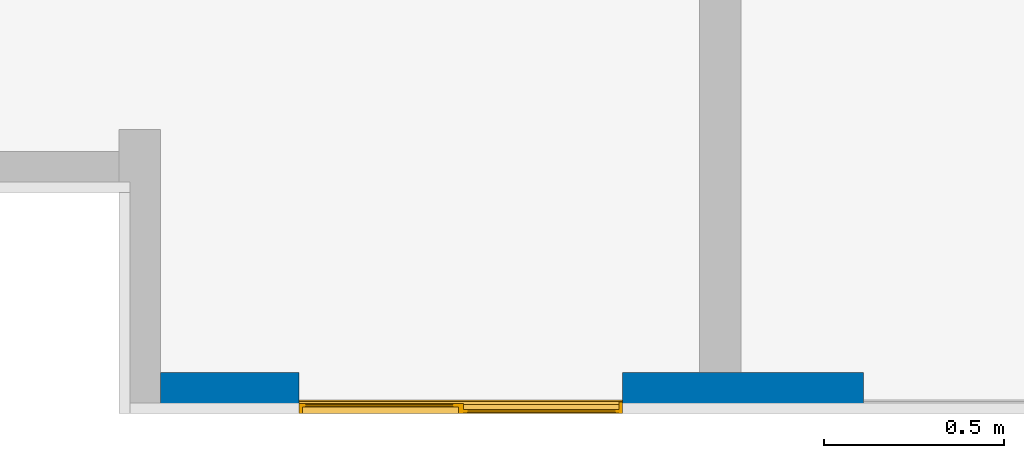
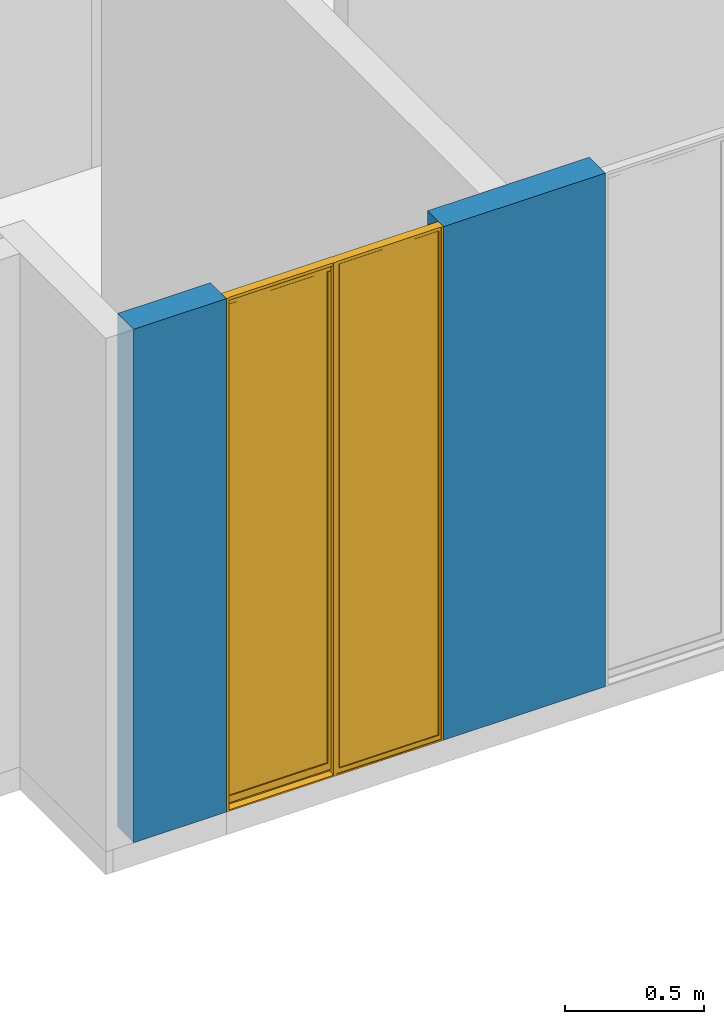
# One storey, part 11 of 47: 1 wall, 1 window, 2 openings.
"""IFC4 building model written with IfcOpenShell, lengths in metres."""

from ifc_helpers import new_model, entity, si_unit, converted_unit, derived_unit, direction, frame, origin, place, context, subcontext, project, spatial, indexed_curve, outline, extrude, polygons, source, transform, mapped, material, constituent, constituent_set, type_object, type_shapes, element, fill, save


model = new_model("IFC4")

# Units and contexts
model_context = context("Model", 3, precision=1e-05, world=origin(), true_north=direction((6.123031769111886e-17, 1.0)))
body_context = subcontext(model_context, "Body", "Model", "MODEL_VIEW")
ifc_project = project(units=[si_unit("LENGTHUNIT", "METRE"), si_unit("AREAUNIT", "SQUARE_METRE"), si_unit("VOLUMEUNIT", "CUBIC_METRE"), converted_unit("PLANEANGLEUNIT", "DEGREE", entity("IfcRatioMeasure", 0.017453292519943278), si_unit("PLANEANGLEUNIT", "RADIAN"), dimensions=[0, 0, 0, 0, 0, 0, 0]), si_unit("MASSUNIT", "GRAM", prefix="KILO"), derived_unit("MASSDENSITYUNIT", [(si_unit("MASSUNIT", "GRAM", prefix="KILO"), 1), (si_unit("LENGTHUNIT", "METRE"), -3)]), derived_unit("IONCONCENTRATIONUNIT", [(si_unit("MASSUNIT", "GRAM", prefix="KILO"), 1), (si_unit("LENGTHUNIT", "METRE"), -3)]), derived_unit("MOMENTOFINERTIAUNIT", [(si_unit("LENGTHUNIT", "METRE"), 4)]), si_unit("TIMEUNIT", "SECOND"), si_unit("FREQUENCYUNIT", "HERTZ"), si_unit("THERMODYNAMICTEMPERATUREUNIT", "DEGREE_CELSIUS"), derived_unit("THERMALTRANSMITTANCEUNIT", [(si_unit("MASSUNIT", "GRAM", prefix="KILO"), 1), (si_unit("THERMODYNAMICTEMPERATUREUNIT", "KELVIN"), -1), (si_unit("TIMEUNIT", "SECOND"), -3)]), derived_unit("THERMALCONDUCTANCEUNIT", [(si_unit("MASSUNIT", "GRAM", prefix="KILO"), 1), (si_unit("THERMODYNAMICTEMPERATUREUNIT", "KELVIN"), -1), (si_unit("TIMEUNIT", "SECOND"), -3), (si_unit("LENGTHUNIT", "METRE"), 1)]), derived_unit("VOLUMETRICFLOWRATEUNIT", [(si_unit("LENGTHUNIT", "METRE"), 3), (si_unit("TIMEUNIT", "SECOND"), -1)]), derived_unit("MASSFLOWRATEUNIT", [(si_unit("MASSUNIT", "GRAM", prefix="KILO"), 1), (si_unit("TIMEUNIT", "SECOND"), -1)]), derived_unit("ROTATIONALFREQUENCYUNIT", [(si_unit("TIMEUNIT", "SECOND"), -1)]), si_unit("ELECTRICCURRENTUNIT", "AMPERE"), si_unit("ELECTRICVOLTAGEUNIT", "VOLT"), si_unit("POWERUNIT", "WATT"), si_unit("FORCEUNIT", "NEWTON", prefix="KILO"), si_unit("ILLUMINANCEUNIT", "LUX"), si_unit("LUMINOUSFLUXUNIT", "LUMEN"), si_unit("LUMINOUSINTENSITYUNIT", "CANDELA"), derived_unit("USERDEFINED", [(si_unit("MASSUNIT", "GRAM", prefix="KILO"), -1), (si_unit("LENGTHUNIT", "METRE"), -2), (si_unit("TIMEUNIT", "SECOND"), 3), (si_unit("LUMINOUSFLUXUNIT", "LUMEN"), 1)]), derived_unit("USERDEFINED", [(si_unit("MASSUNIT", "GRAM", prefix="KILO"), 1), (si_unit("TIMEUNIT", "SECOND"), -3), (si_unit("LENGTHUNIT", "METRE"), 3), (si_unit("ELECTRICCURRENTUNIT", "AMPERE"), -2)]), derived_unit("SOUNDPOWERUNIT", [(si_unit("MASSUNIT", "GRAM", prefix="KILO"), 1), (si_unit("TIMEUNIT", "SECOND"), -3), (si_unit("LENGTHUNIT", "METRE"), 2)]), derived_unit("SOUNDPRESSUREUNIT", [(si_unit("MASSUNIT", "GRAM", prefix="KILO"), 1), (si_unit("LENGTHUNIT", "METRE"), -1), (si_unit("TIMEUNIT", "SECOND"), -2)]), derived_unit("LINEARVELOCITYUNIT", [(si_unit("LENGTHUNIT", "METRE"), 1), (si_unit("TIMEUNIT", "SECOND"), -1)]), si_unit("PRESSUREUNIT", "PASCAL"), derived_unit("USERDEFINED", [(si_unit("MASSUNIT", "GRAM", prefix="KILO"), 1), (si_unit("LENGTHUNIT", "METRE"), -2), (si_unit("TIMEUNIT", "SECOND"), -2)]), derived_unit("LINEARFORCEUNIT", [(si_unit("MASSUNIT", "GRAM", prefix="KILO"), 1), (si_unit("TIMEUNIT", "SECOND"), -2)]), derived_unit("PLANARFORCEUNIT", [(si_unit("MASSUNIT", "GRAM", prefix="KILO"), 1), (si_unit("LENGTHUNIT", "METRE"), -1), (si_unit("TIMEUNIT", "SECOND"), -2)]), derived_unit("SPECIFICHEATCAPACITYUNIT", [(si_unit("THERMODYNAMICTEMPERATUREUNIT", "KELVIN"), -1), (si_unit("LENGTHUNIT", "METRE"), 2), (si_unit("TIMEUNIT", "SECOND"), -2)]), derived_unit("HEATINGVALUEUNIT", [(si_unit("LENGTHUNIT", "METRE"), 2), (si_unit("TIMEUNIT", "SECOND"), -2)]), derived_unit("VAPORPERMEABILITYUNIT", [(si_unit("LENGTHUNIT", "METRE"), -1), (si_unit("TIMEUNIT", "SECOND"), 1)]), derived_unit("DYNAMICVISCOSITYUNIT", [(si_unit("MASSUNIT", "GRAM", prefix="KILO"), 1), (si_unit("TIMEUNIT", "SECOND"), -1), (si_unit("LENGTHUNIT", "METRE"), -1)]), derived_unit("THERMALEXPANSIONCOEFFICIENTUNIT", [(si_unit("THERMODYNAMICTEMPERATUREUNIT", "KELVIN"), -1)]), derived_unit("MODULUSOFELASTICITYUNIT", [(si_unit("MASSUNIT", "GRAM", prefix="KILO"), 1), (si_unit("LENGTHUNIT", "METRE"), -1), (si_unit("TIMEUNIT", "SECOND"), -2)]), derived_unit("ISOTHERMALMOISTURECAPACITYUNIT", [(si_unit("LENGTHUNIT", "METRE"), 3), (si_unit("MASSUNIT", "GRAM", prefix="KILO"), -1)]), derived_unit("MOISTUREDIFFUSIVITYUNIT", [(si_unit("TIMEUNIT", "SECOND"), -1), (si_unit("LENGTHUNIT", "METRE"), 2)])], contexts=[model_context])

# Site, building, storey
site_placement = place(None, origin())
site = spatial("IfcSite", under=ifc_project, at=site_placement, Name="Default", CompositionType="ELEMENT")
building_placement = place(site_placement, origin())
building = spatial("IfcBuilding", under=site, at=building_placement, CompositionType="ELEMENT")
storey_placement = place(building_placement, frame((0.0, 0.0, 11.750000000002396)))
storey = spatial("IfcBuildingStorey", under=building, at=storey_placement, Name="Nivel 6", CompositionType="ELEMENT", Elevation=11.750000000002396)

# Wall, openings, window
ifc_material_1 = material(Name="Ladrillo claro (Aire)", Category="Materials")
wall_type = type_object("IfcWallType", Name="Basic Wall:B2010 - 0.115m - Muro exterior en mampostería - Ladrillo", PredefinedType="STANDARD")
wall_placement = place(storey_placement, frame((12.577500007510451, -12.812500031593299, 0.0)))
wall = element("IfcWall", 1, at=wall_placement, inside=storey, type_object=wall_type, material=ifc_material_1, Name="Basic Wall:B2010 - 0.115m - Muro exterior en mampostería - Ladrillo", ObjectType="Basic Wall:B2010 - 0.115m - Muro exterior en mampostería - Ladrillo", PredefinedType="NOTDEFINED", context=body_context, shape_type="Tessellation", body=[
    polygons([(1.1551788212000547e-17, -0.057499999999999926, 2.250000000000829), (1.1551788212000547e-17, -0.057499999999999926, -2.1657342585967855e-15), (0.3850000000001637, -0.057499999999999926, -2.1657342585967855e-15), (0.3850000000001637, -0.057499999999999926, 2.250000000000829), (6.500625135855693e-16, 0.057499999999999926, -2.1657342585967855e-15), (0.3850000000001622, 0.057499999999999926, -2.1657342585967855e-15), (0.3850000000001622, 0.057499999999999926, 2.250000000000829), (6.500625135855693e-16, 0.057499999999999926, 2.250000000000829)], [[[1, 2, 3, 4]], [[2, 5, 6, 3]], [[4, 3, 6, 7]], [[2, 1, 8, 5]], [[8, 1, 4, 7]], [[5, 8, 7, 6]]], closed=True),
    polygons([(1.9557999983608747, 0.057499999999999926, 2.250000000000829), (1.9557999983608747, 0.057499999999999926, -2.1657342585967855e-15), (1.6149999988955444, 0.05750000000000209, -2.1657342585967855e-15), (1.4999999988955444, 0.057499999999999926, -2.1657342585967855e-15), (1.2850000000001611, 0.057499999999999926, -2.1657342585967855e-15), (1.2850000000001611, 0.057499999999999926, 2.250000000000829), (1.4999999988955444, 0.057499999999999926, 2.2500000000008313), (1.6149999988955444, 0.05750000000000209, 2.2500000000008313), (1.9557999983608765, -0.057499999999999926, 2.250000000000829), (1.2850000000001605, -0.057499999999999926, 2.250000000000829), (1.9557999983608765, -0.057499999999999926, -2.1657342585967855e-15), (1.2850000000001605, -0.057499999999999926, -2.1657342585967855e-15)], [[[1, 2, 3, 4, 5, 6, 7, 8]], [[9, 1, 8, 7, 6, 10]], [[9, 11, 2, 1]], [[12, 10, 6, 5]], [[2, 11, 12, 5, 4, 3]], [[11, 9, 10, 12]]], closed=True),
])
opening_1_placement = place(wall_placement, frame((1.9557999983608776, -0.05749999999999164, 0.0)))
element("IfcOpeningElement", 2, at=opening_1_placement, cuts=wall, Name="B2020 - Ventana corrediza 2C - Aluminio + Vidrio:B2020 - 1.02m x 2.25m - Ventana corrediza 2C - Aluminio + Vidrio:1", PredefinedType="OPENING", context=body_context, shape_type="SweptSolid", body=[
    extrude(outline(indexed_curve([(0.0, 1.0199999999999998), (0.0, 7.374544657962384e-30), (2.2499999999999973, 7.374544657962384e-30), (2.249999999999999, 1.0199999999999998), (0.0, 1.0199999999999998)], self_intersect=False)), frame((0.0, 0.0, 0.0), z_axis=(0.0, 1.0, 0.0), x_axis=(0.0, 0.0, 1.0)), (0.0, 0.0, 1.0), 0.115),
])
opening_2_placement = place(wall_placement, frame((0.38500000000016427, -0.05749999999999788, 0.0)))
opening_2 = element("IfcOpeningElement", 3, at=opening_2_placement, cuts=wall, Name="B2020 - Ventana corrediza 2C - Aluminio + Vidrio:B2020 - 0.90m x 2.25m - Ventana corrediza 2C - Aluminio + Vidrio:1", PredefinedType="OPENING", context=body_context, shape_type="SweptSolid", body=[
    extrude(outline(indexed_curve([(0.0, 0.899999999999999), (0.0, 3.6637865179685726e-30), (2.2499999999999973, 3.6637865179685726e-30), (2.249999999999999, 0.899999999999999), (0.0, 0.899999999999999)], self_intersect=False)), frame((0.0, 0.0, 0.0), z_axis=(0.0, 1.0, 0.0), x_axis=(0.0, 0.0, 1.0)), (0.0, 0.0, 1.0), 0.115),
])
ifc_material_2 = material(Name="Vidrio", Category="Materials")
ifc_constituent_1 = constituent(ifc_material_2, Name="Vidrio", Category="Materials")
ifc_material_3 = material(Name="<Unnamed>")
ifc_constituent_2 = constituent(ifc_material_3, Name="<Unnamed>")
ifc_constituent_set_1 = constituent_set(constituents=[ifc_constituent_1, ifc_constituent_2])
ifc_constituent_3 = constituent(ifc_material_2, Name="Vidrio", Category="Materials")
ifc_constituent_4 = constituent(ifc_material_3, Name="<Unnamed>")
ifc_constituent_set_2 = constituent_set(constituents=[ifc_constituent_3, ifc_constituent_4])
window_type = type_object("IfcWindowType", Name="B2020 - Ventana corrediza 2C - Aluminio + Vidrio:B2020 - 0.90m x 2.25m - Ventana corrediza 2C - Aluminio + Vidrio", PartitioningType="NOTDEFINED", PredefinedType="WINDOW", material=ifc_constituent_set_2)
shared_shape = source(origin(), body_context, "Body", "Tessellation", [
    polygons([(0.4298128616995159, 0.11062877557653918, 0.028641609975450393), (0.4298128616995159, 0.10552744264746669, 0.028641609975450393), (0.019967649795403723, 0.10552744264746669, 0.028641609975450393), (0.019967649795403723, 0.11062877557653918, 0.028641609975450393), (0.4298128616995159, 0.11062877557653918, 2.2347073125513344), (0.4298128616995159, 0.10552744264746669, 2.2347073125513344), (0.019967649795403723, 0.10552744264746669, 2.2347073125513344), (0.019967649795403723, 0.11062877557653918, 2.2347073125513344)], [[[1, 2, 3, 4]], [[5, 6, 2, 1]], [[6, 7, 3, 2]], [[7, 8, 4, 3]], [[8, 5, 1, 4]], [[5, 8, 7, 6]]], closed=True),
    polygons([(0.8811536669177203, 0.09380899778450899, 0.054189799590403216), (0.8811536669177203, 0.0895130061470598, 0.054189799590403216), (0.47172894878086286, 0.0895130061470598, 0.054189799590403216), (0.47172894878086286, 0.09380899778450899, 0.054189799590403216), (0.8811536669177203, 0.09380899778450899, 2.2043993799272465), (0.8811536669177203, 0.0895130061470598, 2.2043993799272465), (0.47172894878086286, 0.0895130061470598, 2.2043993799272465), (0.47172894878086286, 0.09380899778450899, 2.2043993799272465)], [[[1, 2, 3, 4]], [[5, 6, 2, 1]], [[6, 7, 3, 2]], [[7, 8, 4, 3]], [[8, 5, 1, 4]], [[5, 8, 7, 6]]], closed=True),
    polygons([(0.9, 0.07999999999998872, 0.020380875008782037), (0.9, 0.07999999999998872, -2.5718094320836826e-15), (0.9000000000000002, 0.1149999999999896, -2.5718094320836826e-15), (0.9, 0.1150000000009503, 2.2499999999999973), (0.9000000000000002, 0.07720993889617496, 2.2499999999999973), (0.9000000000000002, 0.07720993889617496, 2.2365872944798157), (0.9000000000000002, 0.07857307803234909, 2.2365872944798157), (0.9000000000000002, 0.07857307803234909, 2.24863686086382), (0.9, 0.08683610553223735, 2.24863686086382), (0.9, 0.08683610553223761, 0.017447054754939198), (0.9, 0.08124999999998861, 0.017447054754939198), (0.9, 0.08124999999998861, 0.02163087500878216), (0.9, 0.078577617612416, 0.02163087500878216), (0.9, 0.078577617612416, 0.025674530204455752), (0.9, 0.077327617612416, 0.025674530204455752), (0.9, 0.077327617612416, 0.020380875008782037), (1.353583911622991e-16, 0.07999999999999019, 0.020380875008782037), (1.353583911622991e-16, 0.07999999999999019, -2.5718094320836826e-15), (2.0303758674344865e-16, 0.11499999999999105, -2.5718094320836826e-15), (0.44335450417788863, 0.1149999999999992, 2.2499999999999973), (0.45664549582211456, 0.11499999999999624, 2.2499999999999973), (0.45664549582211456, 0.1149999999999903, 0.006176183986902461), (0.8901022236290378, 0.1149999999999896, 0.006176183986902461), (0.890102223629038, 0.1150000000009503, 2.2499999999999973), (1.353583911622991e-16, 0.1150000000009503, 2.2499999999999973), (0.009999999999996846, 0.11500000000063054, 2.2499999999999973), (0.009999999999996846, 0.11499999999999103, 0.006176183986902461), (0.44335450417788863, 0.11499999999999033, 0.006176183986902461), (0.883701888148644, 0.08683610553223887, 2.2069861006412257), (0.8837018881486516, 0.08683610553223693, 0.0519155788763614), (0.46918072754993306, 0.08683610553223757, 0.0519155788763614), (0.46918072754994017, 0.08683610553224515, 2.2043993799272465), (0.45664549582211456, 0.08683610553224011, 2.2043993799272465), (0.45664549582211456, 0.08683610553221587, 2.2069861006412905), (0.8837018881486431, 0.08683610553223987, 2.237270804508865), (0.45664549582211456, 0.08683610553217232, 2.237270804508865), (0.45664549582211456, 0.08683610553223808, 2.24863686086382), (0.4419528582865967, 0.08683610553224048, 2.24863686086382), (0.4419528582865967, 0.08683610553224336, 0.01744705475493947), (0.45664549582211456, 0.08683610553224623, 0.017447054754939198), (0.45664549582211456, 0.08683610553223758, 0.021630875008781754), (0.8962371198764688, 0.08683610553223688, 0.02163087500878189), (0.8962371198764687, 0.08683610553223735, 0.01744705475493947), (0.8837018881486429, 0.08683610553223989, 2.24863686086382), (1.353583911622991e-16, 0.08124999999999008, 0.017447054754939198), (0.8962371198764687, 0.09036136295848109, 0.017447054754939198), (0.45664549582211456, 0.09036136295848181, 0.017447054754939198), (0.4419528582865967, 0.09036136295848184, 0.017447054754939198), (0.009999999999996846, 0.09036136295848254, 0.017447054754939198), (0.009999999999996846, 0.08300000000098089, 0.017447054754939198), (2.0303758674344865e-16, 0.08300000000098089, 0.017447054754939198), (1.353583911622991e-16, 0.08124999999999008, 0.02163087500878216), (1.353583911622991e-16, 0.07857761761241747, 0.02163087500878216), (1.353583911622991e-16, 0.07857761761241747, 0.025674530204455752), (1.353583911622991e-16, 0.07732761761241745, 0.025674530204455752), (1.353583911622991e-16, 0.07732761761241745, 0.020380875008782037), (0.8811570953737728, 0.09380711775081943, 0.054191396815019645), (0.8837018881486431, 0.09648589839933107, 0.051915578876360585), (0.4691807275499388, 0.09648589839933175, 0.051915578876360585), (0.47172276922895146, 0.09380452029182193, 0.054191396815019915), (0.8837018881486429, 0.09648589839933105, 2.237270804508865), (0.8811536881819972, 0.09378706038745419, 2.237270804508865), (0.8811536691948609, 0.09378696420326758, 2.24863686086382), (0.8837018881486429, 0.09648589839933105, 2.24863686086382), (0.8837018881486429, 0.096485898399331, 2.2069861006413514), (0.45664549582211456, 0.09648589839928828, 2.2069861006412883), (0.45664549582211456, 0.09648589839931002, 2.237270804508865), (0.890102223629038, 0.09648589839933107, 2.24863686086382), (0.8901022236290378, 0.09648589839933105, 0.021630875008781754), (0.45664549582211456, 0.09648589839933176, 0.02163087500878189), (0.45664549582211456, 0.0964858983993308, 2.2043993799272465), (0.46918072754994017, 0.0964858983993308, 2.2043993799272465), (0.47172894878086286, 0.09379974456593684, 2.2043993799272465), (0.881159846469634, 0.08951748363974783, 0.05419139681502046), (0.47172552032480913, 0.08951488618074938, 0.054191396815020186), (0.8811537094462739, 0.08953496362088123, 2.237270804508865), (0.8811536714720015, 0.08953504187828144, 2.24863686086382), (0.47172894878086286, 0.08952215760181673, 2.204399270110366), (0.4419528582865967, 0.10334183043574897, 2.24863686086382), (0.4419528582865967, 0.10334183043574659, 0.014402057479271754), (0.4419528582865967, 0.09363692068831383, 0.014402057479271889), (0.4419528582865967, 0.09363692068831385, 0.010600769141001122), (0.4419528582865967, 0.09036136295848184, 0.011279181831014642), (0.45664549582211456, 0.11281438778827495, 2.2499999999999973), (0.45664549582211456, 0.11281438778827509, 2.2369062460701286), (0.45664549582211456, 0.11061545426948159, 2.2347073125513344), (0.45664549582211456, 0.10554076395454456, 2.2347073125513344), (0.45664549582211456, 0.10334183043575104, 2.2369062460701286), (0.45664549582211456, 0.10334183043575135, 2.24863686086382), (0.45664549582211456, 0.09380888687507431, 2.204399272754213), (0.45664549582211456, 0.09036136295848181, 0.011279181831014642), (0.8962371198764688, 0.09648589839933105, 0.02163087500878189), (0.8962371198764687, 0.09648589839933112, 0.010010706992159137), (0.8962371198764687, 0.09036136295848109, 0.011279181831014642), (0.890102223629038, 0.09648589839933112, 0.010010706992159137), (0.8901022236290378, 0.10334183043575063, 2.24863686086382), (0.890102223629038, 0.10334183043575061, 2.2369062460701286), (0.8901022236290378, 0.10554076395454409, 2.234707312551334), (0.8901022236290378, 0.11061545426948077, 2.234707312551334), (0.8901022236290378, 0.11281438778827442, 2.2369062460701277), (0.8901022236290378, 0.11281438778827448, 2.2499999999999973), (1.353583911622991e-16, 0.08300000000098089, 2.24863686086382), (1.353583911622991e-16, 0.07857307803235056, 2.24863686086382), (1.353583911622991e-16, 0.07857307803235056, 2.2365872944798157), (1.353583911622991e-16, 0.07720993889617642, 2.2365872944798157), (2.0303758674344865e-16, 0.07720993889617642, 2.2499999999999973), (0.009999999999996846, 0.08300000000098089, 2.24863686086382), (0.009999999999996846, 0.09036136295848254, 0.011279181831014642), (0.009999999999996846, 0.09363692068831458, 0.010600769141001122), (0.009999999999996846, 0.09363692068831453, 0.014402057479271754), (0.009999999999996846, 0.10334183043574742, 0.014402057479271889), (0.009999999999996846, 0.10334183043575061, 2.24863686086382), (0.44335450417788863, 0.11281438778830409, 0.006628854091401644), (0.44335450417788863, 0.112814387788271, 2.2499999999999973), (0.009999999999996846, 0.11281438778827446, 2.2499999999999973), (0.009999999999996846, 0.11281438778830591, 0.0066288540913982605), (0.4323610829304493, 0.11281438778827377, 0.026824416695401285), (0.42981286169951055, 0.1106287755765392, 0.028641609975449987), (0.4298128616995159, 0.1106287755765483, 2.2347139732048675), (0.43236108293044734, 0.112814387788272, 2.236906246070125), (0.01996764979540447, 0.11062877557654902, 0.028641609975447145), (0.01741942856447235, 0.11281438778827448, 0.026824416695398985), (0.01741942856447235, 0.11281438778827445, 2.236906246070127), (0.019967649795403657, 0.11062877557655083, 2.2347139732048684), (0.019967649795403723, 0.10552744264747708, 0.028641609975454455), (0.01741942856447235, 0.10334183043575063, 0.026824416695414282), (0.43236108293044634, 0.10334183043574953, 0.02682441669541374), (0.4298128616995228, 0.10552744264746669, 0.028641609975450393), (0.01996880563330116, 0.10553009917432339, 2.234711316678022), (0.017419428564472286, 0.10334183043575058, 2.2369062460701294), (0.432361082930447, 0.10334183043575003, 2.2369062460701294), (0.4298117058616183, 0.10553009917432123, 2.234711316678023), (0.8811537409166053, 0.09378737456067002, 2.2043889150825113), (0.8811555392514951, 0.08953032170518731, 2.2043931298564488), (0.45664549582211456, 0.08951317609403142, 2.204399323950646)], [[[1, 2, 3, 4, 5, 6, 7, 8, 9, 10, 11, 12, 13, 14, 15, 16]], [[17, 18, 2, 1]], [[2, 18, 19, 3]], [[20, 21, 22, 23, 24, 4, 3, 19, 25, 26, 27, 28]], [[35, 36, 37, 38, 39, 40, 41, 42, 43, 10, 9, 44], [29, 30, 31, 32, 33, 34]], [[45, 11, 10, 43, 46, 47, 40, 39, 48, 49, 50, 51]], [[45, 52, 12, 11]], [[52, 53, 13, 12]], [[53, 54, 14, 13]], [[54, 55, 15, 14]], [[55, 56, 16, 15]], [[56, 17, 1, 16]], [[57, 58, 59, 60]], [[61, 62, 63, 64]], [[58, 65, 66, 67, 61, 64, 68, 69, 70, 71, 72, 59]], [[72, 73, 60, 59]], [[74, 57, 60, 75]], [[62, 76, 77, 63]], [[60, 73, 78, 75]], [[30, 74, 75, 31]], [[76, 35, 44, 77]], [[78, 32, 31, 75]], [[48, 39, 38, 79, 80, 81, 82, 83]], [[22, 21, 84, 85, 86, 87, 88, 89, 37, 36, 67, 66, 90, 71, 70, 41, 40, 47, 91]], [[41, 70, 69, 92, 42]], [[92, 93, 94, 46, 43, 42]], [[69, 95, 93, 92]], [[24, 23, 95, 69, 68, 96, 97, 98, 99, 100, 101]], [[17, 56, 55, 54, 53, 52, 45, 51, 102, 103, 104, 105, 106, 25, 19, 18]], [[51, 50, 107, 102]], [[48, 83, 108, 49]], [[50, 49, 108, 109, 110, 111, 112, 107]], [[83, 82, 109, 108]], [[113, 114, 20, 28]], [[26, 115, 116, 27]], [[84, 101, 100, 85]], [[82, 81, 110, 109]], [[117, 118, 119, 120]], [[121, 122, 123, 124]], [[122, 121, 118, 117]], [[125, 126, 127, 128]], [[88, 97, 96, 89]], [[126, 125, 129, 130]], [[128, 127, 131, 132]], [[81, 80, 111, 110]], [[125, 121, 124, 129]], [[121, 125, 128, 118]], [[118, 128, 132, 119]], [[5, 4, 24, 101, 84, 21, 20, 114, 115, 26, 25, 106]], [[65, 133, 73, 90, 66]], [[133, 134, 78, 73]], [[134, 29, 34, 135, 78]], [[76, 62, 61, 67, 36, 35]], [[33, 32, 78, 135]], [[104, 103, 8, 7]], [[105, 104, 7, 6]], [[106, 105, 6, 5]], [[123, 120, 119, 124]], [[132, 129, 124, 119]], [[131, 130, 129, 132]], [[8, 103, 102, 107, 112, 79, 38, 37, 89, 96, 68, 64, 63, 77, 44, 9]], [[87, 98, 97, 88]], [[86, 99, 98, 87]], [[85, 100, 99, 86]], [[73, 72, 71, 90]], [[111, 80, 79, 112], [127, 126, 130, 131]], [[115, 114, 113, 116], [117, 120, 123, 122]], [[113, 28, 27, 116]], [[22, 91, 94, 93, 95, 23]], [[91, 47, 46, 94]], [[135, 34, 33]], [[74, 30, 29, 134]], [[57, 74, 134, 133]], [[58, 57, 133, 65]]], closed=True),
])
type_shapes(window_type, [shared_shape])
window_placement = place(opening_2_placement, frame((0.8999999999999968, 0.11500000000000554, 0.0), z_axis=(0.0, 0.0, 1.0), x_axis=(-1.0, 0.0, 0.0)))
window = element("IfcWindow", 4, at=window_placement, inside=storey, type_object=window_type, material=ifc_constituent_set_1, Name="B2020 - Ventana corrediza 2C - Aluminio + Vidrio:B2020 - 0.90m x 2.25m - Ventana corrediza 2C - Aluminio + Vidrio", ObjectType="B2020 - Ventana corrediza 2C - Aluminio + Vidrio:B2020 - 0.90m x 2.25m - Ventana corrediza 2C - Aluminio + Vidrio", OverallHeight=2.2499999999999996, OverallWidth=0.899999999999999, PartitioningType="NOTDEFINED", PredefinedType="WINDOW", context=body_context, shape_type="MappedRepresentation", body=[
    mapped(shared_shape, transform((0.0, 0.0, 0.0), scale=1.0)),
])
fill(opening_2, window)

save(model, "model.ifc")
